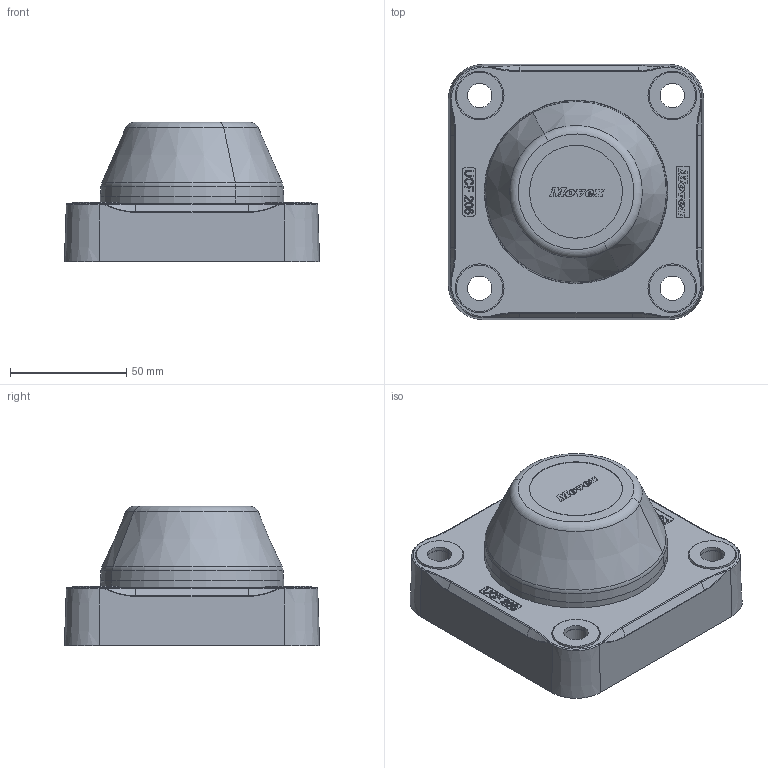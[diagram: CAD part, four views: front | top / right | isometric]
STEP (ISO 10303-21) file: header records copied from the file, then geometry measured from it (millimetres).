
FILE_DESCRIPTION(('CATIA V5 STEP Exchange'),'2;1');
FILE_NAME('C:\Users\dentellad\Desktop\P80902L.stp','2016-12-19T13:06:44+00:00',('none'),('none'),'Version 5-6 Release 2012','CATIA V5 STEP AP203','none');
FILE_SCHEMA(('CONFIG_CONTROL_DESIGN'));
Products named in the file (1): Product1
Assembly tree (12 placements, depth 2):
  Product1
    #58
    #69570
    #84773
    #86980
    #87888  x4
    #88198  x4
Bounding box: 109.93 x 109.93 x 60 mm (x, y, z)
Volume: 194445.7 mm3; surface area: 123573.8 mm2
Topology: 25 solids, 25 shells, 2722 faces, 7455 edges, 4765 vertices
Faces by surface type: plane 2006, cylinder 328, bspline 110, sphere 98, cone 90, torus 90
Entity records: 88377 total; most frequent: CARTESIAN_POINT 22909, ORIENTED_EDGE 14560, DIRECTION 11576, EDGE_CURVE 7280, VECTOR 6093, LINE 6093, VERTEX_POINT 4705, AXIS2_PLACEMENT_3D 3118
